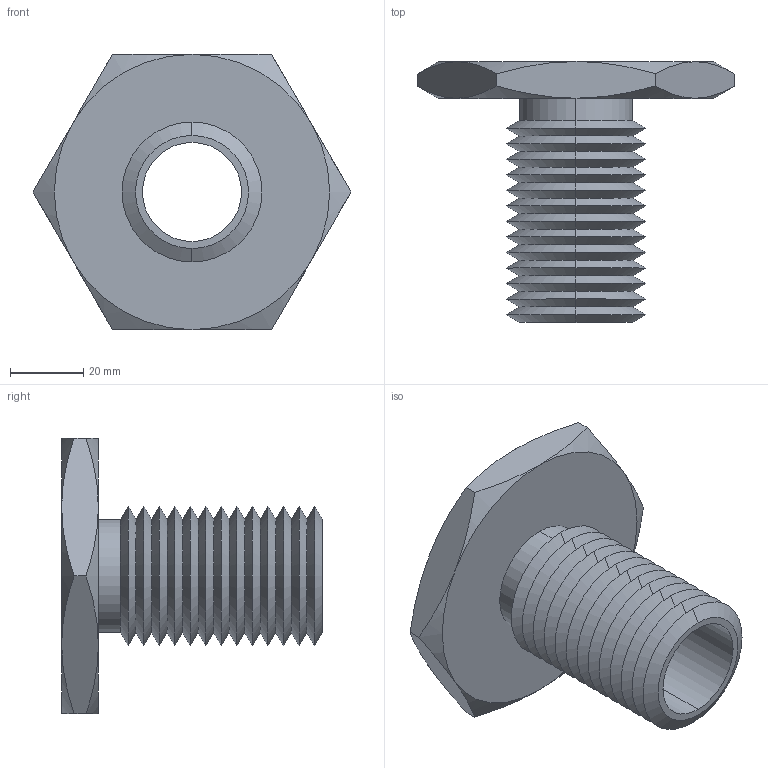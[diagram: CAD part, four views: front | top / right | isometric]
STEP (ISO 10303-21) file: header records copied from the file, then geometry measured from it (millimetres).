
FILE_DESCRIPTION (( 'STEP AP203' ), '1' );
FILE_NAME ('63302.W5150_M27x3.step', '2013-12-08T11:46:10', ( 'User' ), ( '' ), 'SwSTEP 2.0', 'SolidWorks 2009', '' );
FILE_SCHEMA (( 'CONFIG_CONTROL_DESIGN' ));
Length unit declared in the file: millimetre
Products named in the file (1): 63302.W5150_M27x3
Bounding box: 86.6 x 71 x 75 mm (x, y, z)
Volume: 62616.7 mm3; surface area: 29103.5 mm2
Topology: 1 solids, 1 shells, 79 faces, 162 edges, 86 vertices
Faces by surface type: cone 66, plane 9, cylinder 4
Entity records: 2239 total; most frequent: CARTESIAN_POINT 512, DIRECTION 372, ORIENTED_EDGE 324, EDGE_CURVE 162, AXIS2_PLACEMENT_3D 154, VERTEX_POINT 86, EDGE_LOOP 82, ADVANCED_FACE 79
